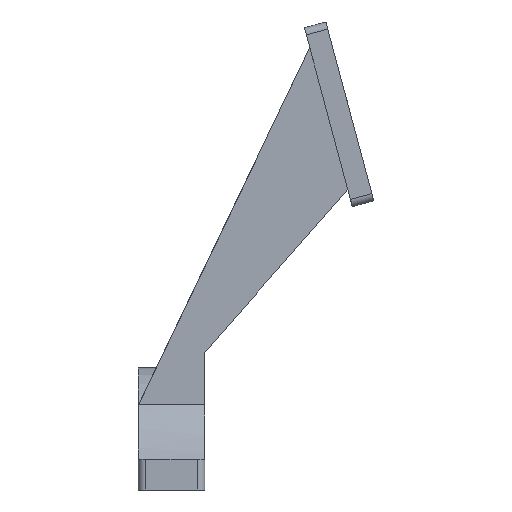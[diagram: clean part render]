
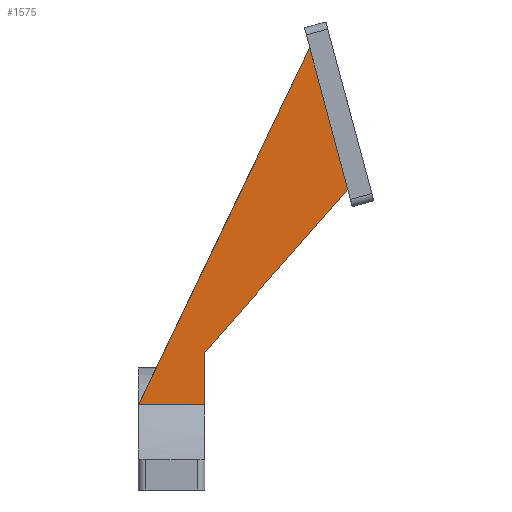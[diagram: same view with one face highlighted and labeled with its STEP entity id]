
A CAD part, front view. The second image highlights one B-rep face of the part: STEP entity #1575.
In plain terms, the highlighted planar face has unit normal (0, -1, 0).
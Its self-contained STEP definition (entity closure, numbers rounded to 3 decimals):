
#33 = CYLINDRICAL_SURFACE('',#34,33.8);
#34 = AXIS2_PLACEMENT_3D('',#35,#36,#37);
#35 = CARTESIAN_POINT('',(-35.,0.,0.));
#36 = DIRECTION('',(-1.,-0.,-0.));
#37 = DIRECTION('',(0.,1.,0.));
#307 = PLANE('',#308);
#308 = AXIS2_PLACEMENT_3D('',#309,#310,#311);
#309 = CARTESIAN_POINT('',(-17.,0.,0.)
  );
#310 = DIRECTION('',(1.,0.,0.));
#311 = DIRECTION('',(-0.,0.,1.));
#454 = VERTEX_POINT('',#455);
#455 = CARTESIAN_POINT('',(-34.856,-24.,23.8));
#473 = PLANE('',#474);
#474 = AXIS2_PLACEMENT_3D('',#475,#476,#477);
#475 = CARTESIAN_POINT('',(11.668,-20.,120.878));
#476 = DIRECTION('',(0.902,0.,-0.432));
#477 = DIRECTION('',(-0.432,0.,-0.902));
#485 = EDGE_CURVE('',#486,#454,#488,.T.);
#486 = VERTEX_POINT('',#487);
#487 = CARTESIAN_POINT('',(-17.,-24.,23.8));
#488 = SURFACE_CURVE('',#489,(#493,#499),.PCURVE_S1.);
#489 = LINE('',#490,#491);
#490 = CARTESIAN_POINT('',(-35.,-24.,23.8));
#491 = VECTOR('',#492,1.);
#492 = DIRECTION('',(-1.,-0.,-0.));
#493 = PCURVE('',#33,#494);
#494 = DEFINITIONAL_REPRESENTATION('',(#495),#498);
#495 = B_SPLINE_CURVE_WITH_KNOTS('',1,(#496,#497),.UNSPECIFIED.,.F.,.F.,
  (2,2),(-18.,0.),.PIECEWISE_BEZIER_KNOTS.);
#496 = CARTESIAN_POINT('',(-2.36,-18.));
#497 = CARTESIAN_POINT('',(-2.36,0.));
#498 = ( GEOMETRIC_REPRESENTATION_CONTEXT(2) 
PARAMETRIC_REPRESENTATION_CONTEXT() REPRESENTATION_CONTEXT('2D SPACE',''
  ) );
#499 = PCURVE('',#500,#505);
#500 = PLANE('',#501);
#501 = AXIS2_PLACEMENT_3D('',#502,#503,#504);
#502 = CARTESIAN_POINT('',(-4.812,-24.,67.953));
#503 = DIRECTION('',(-0.,-1.,-0.));
#504 = DIRECTION('',(0.,0.,-1.));
#505 = DEFINITIONAL_REPRESENTATION('',(#506),#509);
#506 = B_SPLINE_CURVE_WITH_KNOTS('',1,(#507,#508),.UNSPECIFIED.,.F.,.F.,
  (2,2),(-18.,0.),.PIECEWISE_BEZIER_KNOTS.);
#507 = CARTESIAN_POINT('',(44.153,-12.188));
#508 = CARTESIAN_POINT('',(44.153,-30.188));
#509 = ( GEOMETRIC_REPRESENTATION_CONTEXT(2) 
PARAMETRIC_REPRESENTATION_CONTEXT() REPRESENTATION_CONTEXT('2D SPACE',''
  ) );
#1504 = VERTEX_POINT('',#1505);
#1505 = CARTESIAN_POINT('',(-17.,-24.,38.));
#1519 = PLANE('',#1520);
#1520 = AXIS2_PLACEMENT_3D('',#1521,#1522,#1523);
#1521 = CARTESIAN_POINT('',(-17.,-20.,38.));
#1522 = DIRECTION('',(-0.75,0.,0.661));
#1523 = DIRECTION('',(0.661,0.,0.75));
#1531 = EDGE_CURVE('',#486,#1504,#1532,.T.);
#1532 = SURFACE_CURVE('',#1533,(#1537,#1544),.PCURVE_S1.);
#1533 = LINE('',#1534,#1535);
#1534 = CARTESIAN_POINT('',(-17.,-24.,23.5));
#1535 = VECTOR('',#1536,1.);
#1536 = DIRECTION('',(0.,0.,1.));
#1537 = PCURVE('',#307,#1538);
#1538 = DEFINITIONAL_REPRESENTATION('',(#1539),#1543);
#1539 = LINE('',#1540,#1541);
#1540 = CARTESIAN_POINT('',(23.5,24.));
#1541 = VECTOR('',#1542,1.);
#1542 = DIRECTION('',(1.,0.));
#1543 = ( GEOMETRIC_REPRESENTATION_CONTEXT(2) 
PARAMETRIC_REPRESENTATION_CONTEXT() REPRESENTATION_CONTEXT('2D SPACE',''
  ) );
#1544 = PCURVE('',#500,#1545);
#1545 = DEFINITIONAL_REPRESENTATION('',(#1546),#1550);
#1546 = LINE('',#1547,#1548);
#1547 = CARTESIAN_POINT('',(44.453,-12.188));
#1548 = VECTOR('',#1549,1.);
#1549 = DIRECTION('',(-1.,0.));
#1550 = ( GEOMETRIC_REPRESENTATION_CONTEXT(2) 
PARAMETRIC_REPRESENTATION_CONTEXT() REPRESENTATION_CONTEXT('2D SPACE',''
  ) );
#1575 = ADVANCED_FACE('',(#1576),#500,.T.);
#1576 = FACE_BOUND('',#1577,.T.);
#1577 = EDGE_LOOP('',(#1578,#1601,#1602,#1603,#1626));
#1578 = ORIENTED_EDGE('',*,*,#1579,.T.);
#1579 = EDGE_CURVE('',#1580,#454,#1582,.T.);
#1580 = VERTEX_POINT('',#1581);
#1581 = CARTESIAN_POINT('',(11.336,-24.,120.186));
#1582 = SURFACE_CURVE('',#1583,(#1587,#1594),.PCURVE_S1.);
#1583 = LINE('',#1584,#1585);
#1584 = CARTESIAN_POINT('',(11.668,-24.,120.878));
#1585 = VECTOR('',#1586,1.);
#1586 = DIRECTION('',(-0.432,0.,-0.902));
#1587 = PCURVE('',#500,#1588);
#1588 = DEFINITIONAL_REPRESENTATION('',(#1589),#1593);
#1589 = LINE('',#1590,#1591);
#1590 = CARTESIAN_POINT('',(-52.925,16.48));
#1591 = VECTOR('',#1592,1.);
#1592 = DIRECTION('',(0.902,-0.432));
#1593 = ( GEOMETRIC_REPRESENTATION_CONTEXT(2) 
PARAMETRIC_REPRESENTATION_CONTEXT() REPRESENTATION_CONTEXT('2D SPACE',''
  ) );
#1594 = PCURVE('',#473,#1595);
#1595 = DEFINITIONAL_REPRESENTATION('',(#1596),#1600);
#1596 = LINE('',#1597,#1598);
#1597 = CARTESIAN_POINT('',(-0.,-4.));
#1598 = VECTOR('',#1599,1.);
#1599 = DIRECTION('',(1.,0.));
#1600 = ( GEOMETRIC_REPRESENTATION_CONTEXT(2) 
PARAMETRIC_REPRESENTATION_CONTEXT() REPRESENTATION_CONTEXT('2D SPACE',''
  ) );
#1601 = ORIENTED_EDGE('',*,*,#485,.F.);
#1602 = ORIENTED_EDGE('',*,*,#1531,.T.);
#1603 = ORIENTED_EDGE('',*,*,#1604,.T.);
#1604 = EDGE_CURVE('',#1504,#1605,#1607,.T.);
#1605 = VERTEX_POINT('',#1606);
#1606 = CARTESIAN_POINT('',(21.624,-24.,81.791));
#1607 = SURFACE_CURVE('',#1608,(#1612,#1619),.PCURVE_S1.);
#1608 = LINE('',#1609,#1610);
#1609 = CARTESIAN_POINT('',(-17.,-24.,38.));
#1610 = VECTOR('',#1611,1.);
#1611 = DIRECTION('',(0.661,0.,0.75));
#1612 = PCURVE('',#500,#1613);
#1613 = DEFINITIONAL_REPRESENTATION('',(#1614),#1618);
#1614 = LINE('',#1615,#1616);
#1615 = CARTESIAN_POINT('',(29.953,-12.188));
#1616 = VECTOR('',#1617,1.);
#1617 = DIRECTION('',(-0.75,0.661));
#1618 = ( GEOMETRIC_REPRESENTATION_CONTEXT(2) 
PARAMETRIC_REPRESENTATION_CONTEXT() REPRESENTATION_CONTEXT('2D SPACE',''
  ) );
#1619 = PCURVE('',#1519,#1620);
#1620 = DEFINITIONAL_REPRESENTATION('',(#1621),#1625);
#1621 = LINE('',#1622,#1623);
#1622 = CARTESIAN_POINT('',(0.,-4.));
#1623 = VECTOR('',#1624,1.);
#1624 = DIRECTION('',(1.,0.));
#1625 = ( GEOMETRIC_REPRESENTATION_CONTEXT(2) 
PARAMETRIC_REPRESENTATION_CONTEXT() REPRESENTATION_CONTEXT('2D SPACE',''
  ) );
#1626 = ORIENTED_EDGE('',*,*,#1627,.F.);
#1627 = EDGE_CURVE('',#1580,#1605,#1628,.T.);
#1628 = SURFACE_CURVE('',#1629,(#1633,#1639),.PCURVE_S1.);
#1629 = LINE('',#1630,#1631);
#1630 = CARTESIAN_POINT('',(16.602,-24.,100.534));
#1631 = VECTOR('',#1632,1.);
#1632 = DIRECTION('',(0.259,0.,-0.966));
#1633 = PCURVE('',#500,#1634);
#1634 = DEFINITIONAL_REPRESENTATION('',(#1635),#1638);
#1635 = B_SPLINE_CURVE_WITH_KNOTS('',1,(#1636,#1637),.UNSPECIFIED.,.F.,
  .F.,(2,2),(-21.062,20.938),.PIECEWISE_BEZIER_KNOTS.);
#1636 = CARTESIAN_POINT('',(-52.925,15.963));
#1637 = CARTESIAN_POINT('',(-12.356,26.833));
#1638 = ( GEOMETRIC_REPRESENTATION_CONTEXT(2) 
PARAMETRIC_REPRESENTATION_CONTEXT() REPRESENTATION_CONTEXT('2D SPACE',''
  ) );
#1639 = PCURVE('',#1640,#1645);
#1640 = PLANE('',#1641);
#1641 = AXIS2_PLACEMENT_3D('',#1642,#1643,#1644);
#1642 = CARTESIAN_POINT('',(9.891,-27.,125.579));
#1643 = DIRECTION('',(0.966,0.,0.259));
#1644 = DIRECTION('',(0.259,0.,-0.966));
#1645 = DEFINITIONAL_REPRESENTATION('',(#1646),#1649);
#1646 = B_SPLINE_CURVE_WITH_KNOTS('',1,(#1647,#1648),.UNSPECIFIED.,.F.,
  .F.,(2,2),(-21.062,20.938),.PIECEWISE_BEZIER_KNOTS.);
#1647 = CARTESIAN_POINT('',(4.866,3.));
#1648 = CARTESIAN_POINT('',(46.866,3.));
#1649 = ( GEOMETRIC_REPRESENTATION_CONTEXT(2) 
PARAMETRIC_REPRESENTATION_CONTEXT() REPRESENTATION_CONTEXT('2D SPACE',''
  ) );
